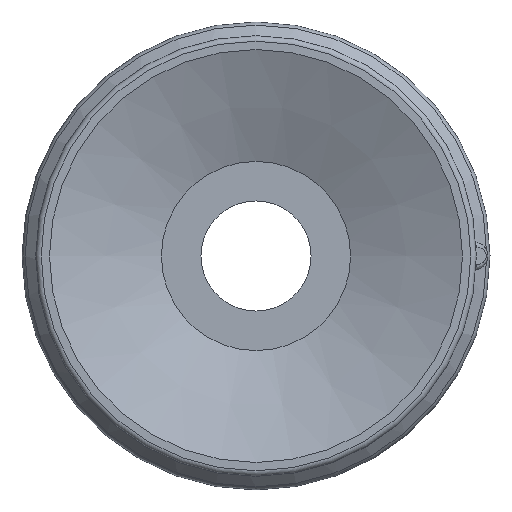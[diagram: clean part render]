
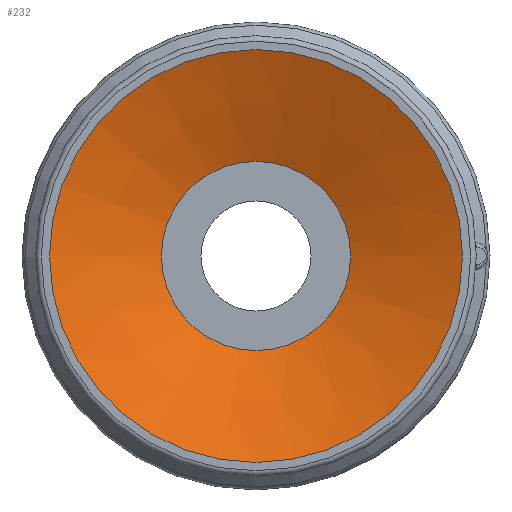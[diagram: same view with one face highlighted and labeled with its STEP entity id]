
A CAD part, front view. The second image highlights one B-rep face of the part: STEP entity #232.
In plain terms, the highlighted conical face has half-angle 67.5 degrees and reference radius 3.437 mm.
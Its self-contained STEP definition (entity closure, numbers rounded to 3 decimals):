
#232=ADVANCED_FACE('',(#310,#311),#312,.F.);
#310=FACE_OUTER_BOUND('',#402,.T.);
#311=FACE_BOUND('',#403,.T.);
#312=CONICAL_SURFACE('',#404,3.437,1.178);
#402=EDGE_LOOP('',(#1497));
#403=EDGE_LOOP('',(#1498));
#404=AXIS2_PLACEMENT_3D('',#1499,#1500,#1501);
#1497=ORIENTED_EDGE('',*,*,#1582,.T.);
#1498=ORIENTED_EDGE('',*,*,#1586,.F.);
#1499=CARTESIAN_POINT('',(0.0,0.0,1.683));
#1500=DIRECTION('',(0.0,0.,-1.0));
#1501=DIRECTION('',(0.0,1.0,0.));
#1582=EDGE_CURVE('',#1653,#1653,#1654,.T.);
#1586=EDGE_CURVE('',#1661,#1661,#1662,.T.);
#1653=VERTEX_POINT('',#1781);
#1654=CIRCLE('',#1782,7.5);
#1661=VERTEX_POINT('',#1789);
#1662=CIRCLE('',#1790,3.437);
#1781=CARTESIAN_POINT('',(-7.5,0.0,0.));
#1782=AXIS2_PLACEMENT_3D('',#2030,#2031,#2032);
#1789=CARTESIAN_POINT('',(-3.437,0.0,1.683));
#1790=AXIS2_PLACEMENT_3D('',#2042,#2043,#2044);
#2030=CARTESIAN_POINT('',(0.0,0.0,0.));
#2031=DIRECTION('',(0.0,0.,-1.0));
#2032=DIRECTION('',(0.0,1.0,0.));
#2042=CARTESIAN_POINT('',(0.0,0.0,1.683));
#2043=DIRECTION('',(0.0,0.,-1.0));
#2044=DIRECTION('',(0.0,1.0,0.));
